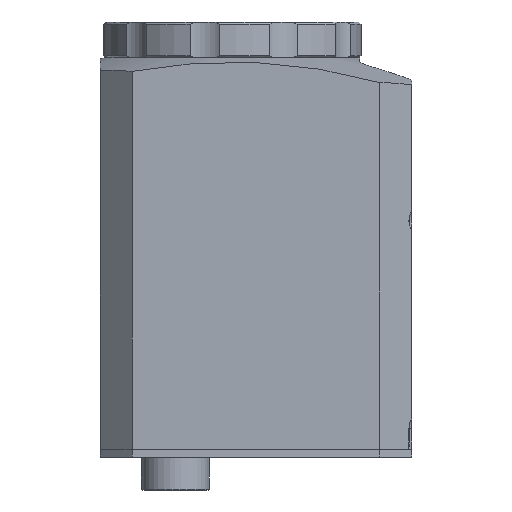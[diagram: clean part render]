
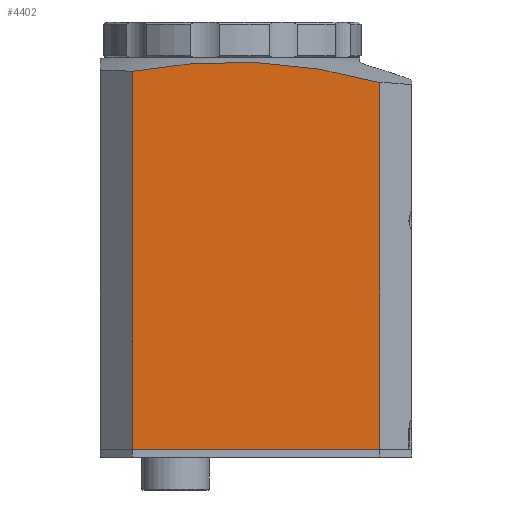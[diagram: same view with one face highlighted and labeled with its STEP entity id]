
A CAD part, left-side view. The second image highlights one B-rep face of the part: STEP entity #4402.
In plain terms, the highlighted planar face has unit normal (-1, 0, 0).
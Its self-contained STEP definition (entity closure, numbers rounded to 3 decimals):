
#45 = EDGE_LOOP ( 'NONE', ( #960, #8270, #4932, #534 ) ) ;
#108 = LINE ( 'NONE', #3232, #7372 ) ;
#395 = CARTESIAN_POINT ( 'NONE',  ( -23.604, -25.641, 14.295 ) ) ;
#521 = EDGE_CURVE ( 'NONE', #3822, #4922, #108, .T. ) ;
#534 = ORIENTED_EDGE ( 'NONE', *, *, #521, .F. ) ;
#621 = VERTEX_POINT ( 'NONE', #7949 ) ;
#960 = ORIENTED_EDGE ( 'NONE', *, *, #7919, .T. ) ;
#1350 = DIRECTION ( 'NONE',  ( 1., 0., 0. ) ) ;
#1422 = DIRECTION ( 'NONE',  ( -1., 0., 0. ) ) ;
#2232 = AXIS2_PLACEMENT_3D ( 'NONE', #6125, #1350, #4401 ) ;
#2876 = EDGE_CURVE ( 'NONE', #9816, #621, #6942, .T. ) ;
#2932 = FACE_OUTER_BOUND ( 'NONE', #45, .T. ) ;
#3083 = PLANE ( 'NONE',  #2232 ) ;
#3232 = CARTESIAN_POINT ( 'NONE',  ( -23.604, -25.641, 14.295 ) ) ;
#3261 = CARTESIAN_POINT ( 'NONE',  ( -23.604, 5.359, 14.295 ) ) ;
#3612 = DIRECTION ( 'NONE',  ( 0., -1., 0. ) ) ;
#3822 = VERTEX_POINT ( 'NONE', #395 ) ;
#4099 = LINE ( 'NONE', #6226, #8022 ) ;
#4356 = CARTESIAN_POINT ( 'NONE',  ( -23.604, -25.641, 14.295 ) ) ;
#4401 = DIRECTION ( 'NONE',  ( 0., -1., 0. ) ) ;
#4402 = ADVANCED_FACE ( 'NONE', ( #2932 ), #3083, .F. ) ;
#4922 = VERTEX_POINT ( 'NONE', #3261 ) ;
#4932 = ORIENTED_EDGE ( 'NONE', *, *, #8140, .F. ) ;
#5483 = DIRECTION ( 'NONE',  ( 0., 1., 0. ) ) ;
#6125 = CARTESIAN_POINT ( 'NONE',  ( -23.604, -25.641, 14.295 ) ) ;
#6226 = CARTESIAN_POINT ( 'NONE',  ( -23.604, 5.359, 14.295 ) ) ;
#6664 = CARTESIAN_POINT ( 'NONE',  ( -23.604, -25.641, 60.202 ) ) ;
#6942 = CIRCLE ( 'NONE', #9705, 67.633 ) ;
#7117 = DIRECTION ( 'NONE',  ( 0., 0., 1. ) ) ;
#7372 = VECTOR ( 'NONE', #5483, 1000. ) ;
#7919 = EDGE_CURVE ( 'NONE', #3822, #9816, #8126, .T. ) ;
#7949 = CARTESIAN_POINT ( 'NONE',  ( -23.604, 5.359, 61.616 ) ) ;
#8022 = VECTOR ( 'NONE', #7117, 1000. ) ;
#8126 = LINE ( 'NONE', #4356, #8183 ) ;
#8140 = EDGE_CURVE ( 'NONE', #4922, #621, #4099, .T. ) ;
#8183 = VECTOR ( 'NONE', #8799, 1000. ) ;
#8270 = ORIENTED_EDGE ( 'NONE', *, *, #2876, .T. ) ;
#8299 = CARTESIAN_POINT ( 'NONE',  ( -23.604, -7.141, -4.852 ) ) ;
#8799 = DIRECTION ( 'NONE',  ( 0., 0., 1. ) ) ;
#9705 = AXIS2_PLACEMENT_3D ( 'NONE', #8299, #1422, #3612 ) ;
#9816 = VERTEX_POINT ( 'NONE', #6664 ) ;
